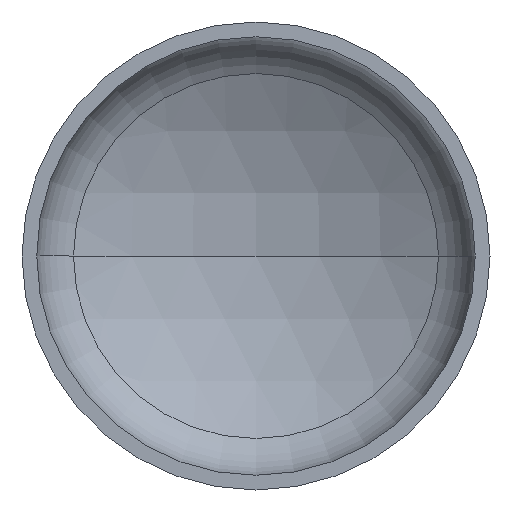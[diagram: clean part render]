
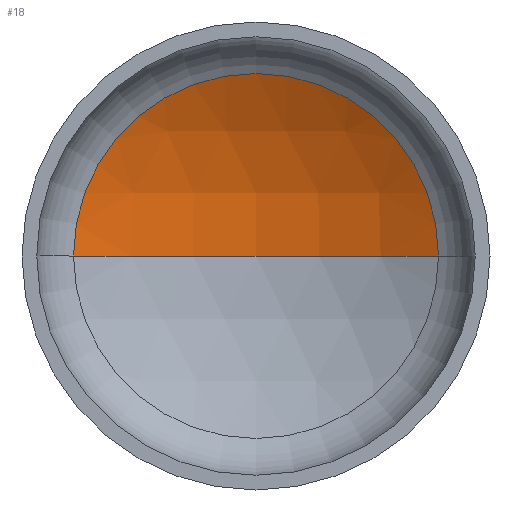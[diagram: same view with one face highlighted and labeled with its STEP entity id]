
A CAD part, front view. The second image highlights one B-rep face of the part: STEP entity #18.
In plain terms, the highlighted spherical face has radius 406 mm.
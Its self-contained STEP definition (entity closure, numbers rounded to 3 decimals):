
#14 = ORIENTED_EDGE ( 'NONE', *, *, #158, .T. ) ;
#16 = VERTEX_POINT ( 'NONE', #234 ) ;
#18 = ADVANCED_FACE ( 'NONE', ( #208 ), #269, .F. ) ;
#26 = EDGE_LOOP ( 'NONE', ( #95, #68, #14 ) ) ;
#29 = CIRCLE ( 'NONE', #83, 406. ) ;
#36 = VERTEX_POINT ( 'NONE', #188 ) ;
#51 = VERTEX_POINT ( 'NONE', #189 ) ;
#54 = DIRECTION ( 'NONE',  ( 1., 0., 0. ) ) ;
#63 = CIRCLE ( 'NONE', #100, 198.049 ) ;
#68 = ORIENTED_EDGE ( 'NONE', *, *, #162, .T. ) ;
#83 = AXIS2_PLACEMENT_3D ( 'NONE', #210, #209, #207 ) ;
#95 = ORIENTED_EDGE ( 'NONE', *, *, #163, .F. ) ;
#96 = AXIS2_PLACEMENT_3D ( 'NONE', #98, #103, #149 ) ;
#98 = CARTESIAN_POINT ( 'NONE',  ( 0., -231.328, 0. ) ) ;
#100 = AXIS2_PLACEMENT_3D ( 'NONE', #221, #379, #54 ) ;
#103 = DIRECTION ( 'NONE',  ( 0., 0., -1. ) ) ;
#137 = AXIS2_PLACEMENT_3D ( 'NONE', #193, #213, #192 ) ;
#149 = DIRECTION ( 'NONE',  ( -1., 0., 0. ) ) ;
#158 = EDGE_CURVE ( 'NONE', #36, #51, #63, .T. ) ;
#162 = EDGE_CURVE ( 'NONE', #16, #36, #183, .T. ) ;
#163 = EDGE_CURVE ( 'NONE', #16, #51, #29, .T. ) ;
#183 = CIRCLE ( 'NONE', #96, 406. ) ;
#188 = CARTESIAN_POINT ( 'NONE',  ( 198.049, 123.09, 0. ) ) ;
#189 = CARTESIAN_POINT ( 'NONE',  ( -198.049, 123.09, 0. ) ) ;
#192 = DIRECTION ( 'NONE',  ( -1., 0., 0. ) ) ;
#193 = CARTESIAN_POINT ( 'NONE',  ( 0., -231.328, 0. ) ) ;
#207 = DIRECTION ( 'NONE',  ( 1., 0., 0. ) ) ;
#208 = FACE_OUTER_BOUND ( 'NONE', #26, .T. ) ;
#209 = DIRECTION ( 'NONE',  ( 0., 0., 1. ) ) ;
#210 = CARTESIAN_POINT ( 'NONE',  ( 0., -231.328, 0. ) ) ;
#213 = DIRECTION ( 'NONE',  ( 0., 0., -1. ) ) ;
#221 = CARTESIAN_POINT ( 'NONE',  ( 0., 123.09, 0. ) ) ;
#234 = CARTESIAN_POINT ( 'NONE',  ( 0., 174.672, 0. ) ) ;
#269 = SPHERICAL_SURFACE ( 'NONE', #137, 406. ) ;
#379 = DIRECTION ( 'NONE',  ( 0., -1., 0. ) ) ;
